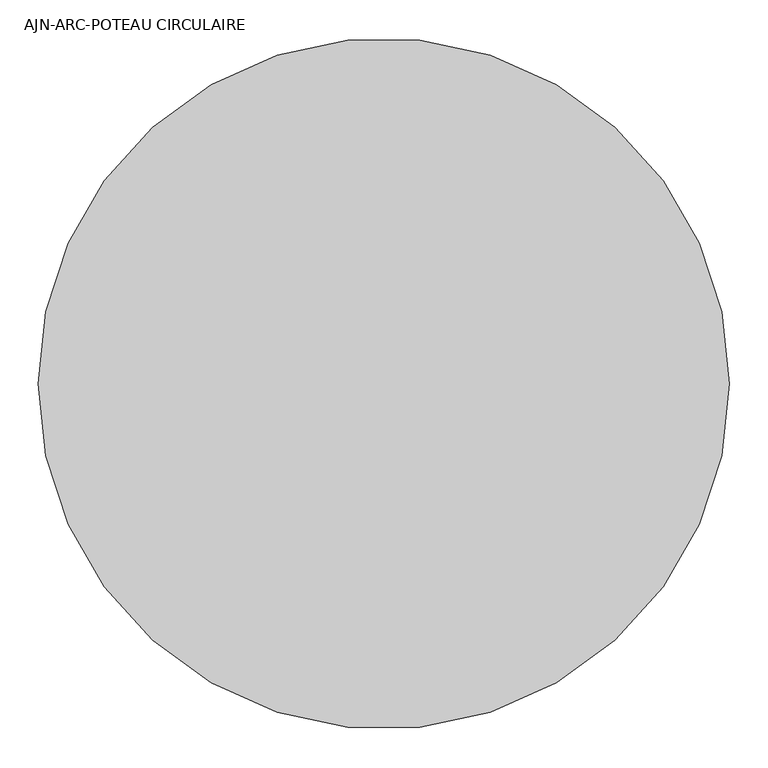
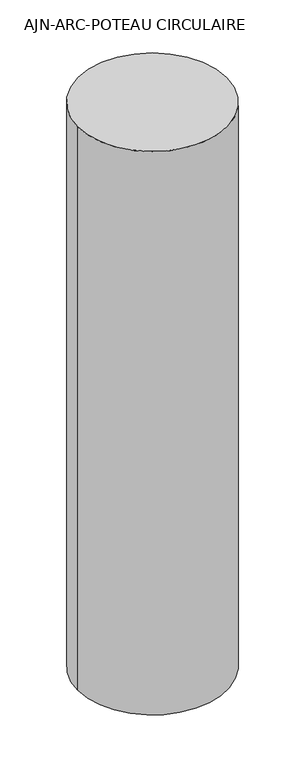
"""IFC4 building model written with IfcOpenShell, lengths in millimetres: column geometry, AJN-ARC-POTEAU CIRCULAIRE : ø90."""

from ifc_helpers import new_model, si_unit, point, frame, origin, origin_2d, place, context, project, spatial, circle_curve, trimmed, segment, composite_curve, outline, extrude, source, transform, mapped, element, save


def ajn_arc_poteau_circulaire_69af3657(model_context):
    return source(origin(), model_context, "Body", "SweptSolid", [
        extrude(outline(composite_curve([segment(trimmed(circle_curve(origin_2d(), 450.0), [point((-450.0, 0.0))], [point((450.0, 0.0))], False, "CARTESIAN"), True, "CONTINUOUS"), segment(trimmed(circle_curve(origin_2d(), 450.0), [point((450.0, 0.0))], [point((-450.0, 0.0))], False, "CARTESIAN"), True, "CONTINUOUS")], self_intersect=False)), frame((0.0, 0.0, 38799.9999686), z_axis=(0.0, 0.0, 1.0), x_axis=(1.0, 0.0, 0.0)), (0.0, 0.0, 1.0), 3600.0),
    ])


if __name__ == "__main__":
    model = new_model("IFC4")
    model_context = context("Model", 3, world=origin())
    ifc_project = project(units=[si_unit("LENGTHUNIT", "METRE", prefix="MILLI")], contexts=[model_context])
    site = spatial("IfcSite", under=ifc_project)
    building = spatial("IfcBuilding", under=site)
    placement = place(None, origin())
    ajn_arc_poteau_circulaire_shape = ajn_arc_poteau_circulaire_69af3657(model_context)
    element("IfcColumn", 1, ObjectType="AJN-ARC-POTEAU CIRCULAIRE : ø90", at=placement, inside=building, context=model_context, shape_type="MappedRepresentation", body=[
        mapped(ajn_arc_poteau_circulaire_shape, transform((0.0, 0.0, 0.0), x_axis=(1.0, 0.0, 0.0), y_axis=(0.0, 1.0, 0.0), z_axis=(0.0, 0.0, 1.0))),
    ])
    save(model, "model.ifc")
